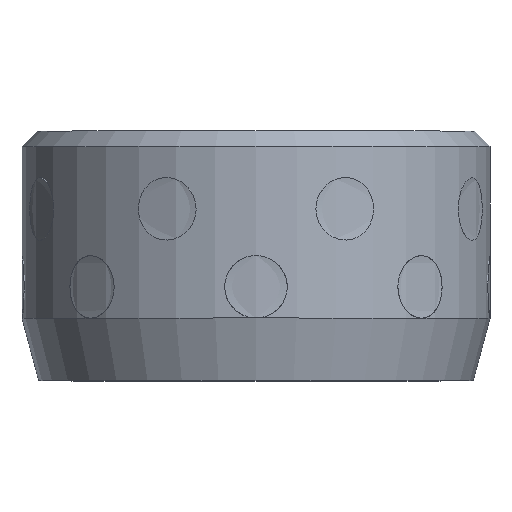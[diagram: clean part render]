
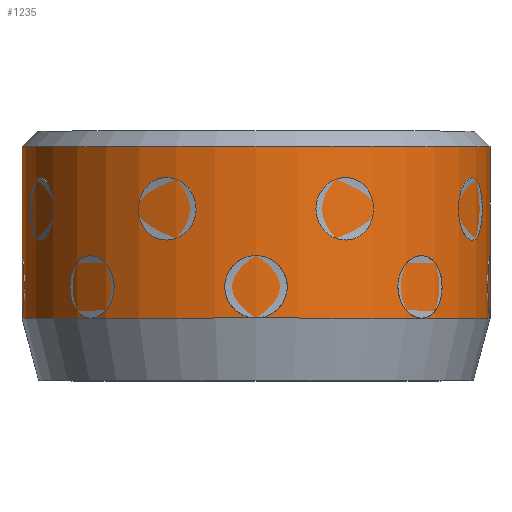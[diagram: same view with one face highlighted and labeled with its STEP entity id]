
A CAD part, top view. The second image highlights one B-rep face of the part: STEP entity #1235.
In plain terms, the highlighted cylindrical face has radius 15 mm (diameter 30 mm), a full revolution.
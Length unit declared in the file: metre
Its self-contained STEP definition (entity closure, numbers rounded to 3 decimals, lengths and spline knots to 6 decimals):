
#1235 = ADVANCED_FACE( '', ( #1329, #1330 ), #1331, .T. );
#1329 = FACE_OUTER_BOUND( '', #1521, .T. );
#1330 = FACE_OUTER_BOUND( '', #1522, .T. );
#1331 = CYLINDRICAL_SURFACE( '', #1523, 0.015 );
#1521 = EDGE_LOOP( '', ( #1725 ) );
#1522 = EDGE_LOOP( '', ( #1726 ) );
#1523 = AXIS2_PLACEMENT_3D( '', #1727, #1728, #1729 );
#1725 = ORIENTED_EDGE( '', *, *, #2054, .T. );
#1726 = ORIENTED_EDGE( '', *, *, #2053, .F. );
#1727 = CARTESIAN_POINT( '', ( 0., 0., 0. ) );
#1728 = DIRECTION( '', ( 0., 1., 0. ) );
#1729 = DIRECTION( '', ( 0., 0., -1. ) );
#2053 = EDGE_CURVE( '', #2115, #2115, #2116, .T. );
#2054 = EDGE_CURVE( '', #2117, #2117, #2118, .T. );
#2115 = VERTEX_POINT( '', #2227 );
#2116 = CIRCLE( '', #2228, 0.015 );
#2117 = VERTEX_POINT( '', #2229 );
#2118 = CIRCLE( '', #2230, 0.015 );
#2227 = CARTESIAN_POINT( '', ( 0., 0.004, -0.015 ) );
#2228 = AXIS2_PLACEMENT_3D( '', #4889, #4890, #4891 );
#2229 = CARTESIAN_POINT( '', ( 0., 0.015, -0.015 ) );
#2230 = AXIS2_PLACEMENT_3D( '', #4892, #4893, #4894 );
#4889 = CARTESIAN_POINT( '', ( 0., 0.004, 0. ) );
#4890 = DIRECTION( '', ( 0., -1., 0. ) );
#4891 = DIRECTION( '', ( 0., 0., -1. ) );
#4892 = CARTESIAN_POINT( '', ( 0., 0.015, 0. ) );
#4893 = DIRECTION( '', ( 0., -1., 0. ) );
#4894 = DIRECTION( '', ( 0., 0., -1. ) );
